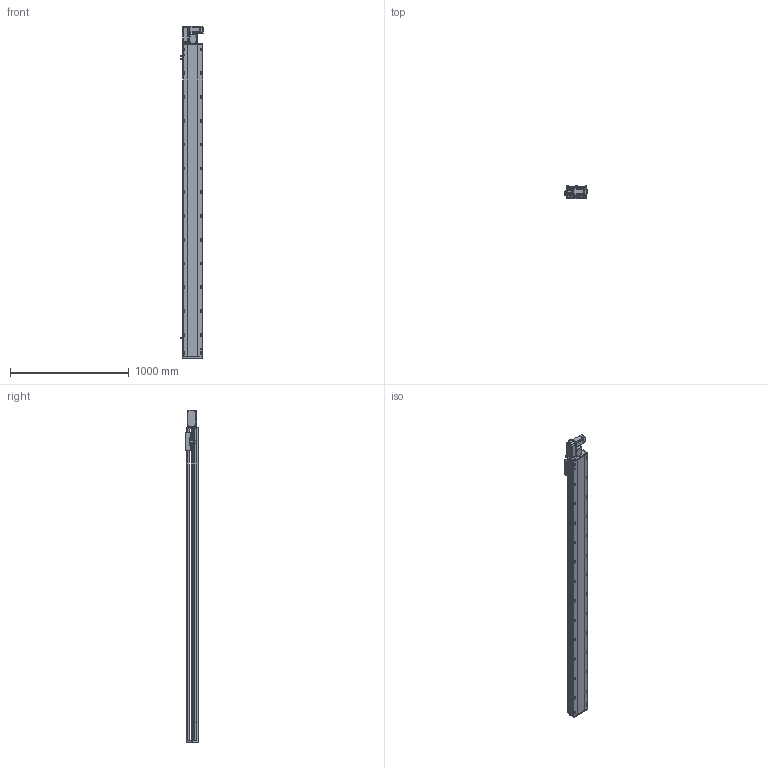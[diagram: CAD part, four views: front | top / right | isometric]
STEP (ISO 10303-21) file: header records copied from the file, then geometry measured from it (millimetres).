
FILE_DESCRIPTION (( 'STEP AP214' ), '1' );
FILE_NAME ('RTB17S-XX-2350-L-M40-C4.STEP', '2025-12-11T05:54:26', ( '' ), ( '' ), 'SwSTEP 2.0', 'SolidWorks 2018', '' );
FILE_SCHEMA (( 'AUTOMOTIVE_DESIGN' ));
Length unit declared in the file: millimetre
Products named in the file (14): RTB17-R-011底座^RTB17S-XX-XX-L-M40-C4（方程式）; RTB14-L-018P^RTB17S-L-皮带座装配-400W_RTB17S-XX-XX-L-M40-C4（方程式）; RTB17S-L-004丝杆螺母连接座^RTB17S-XX-XX-L-M40-C4（方程式）; RTB14-L-005P--轴承塑胶压盖^RTB17S-L-皮带座装配-400W_RTB17S-XX-XX-L-M40-C4（方程式）; RTB14-L-017P^RTB17S-L-皮带座装配-400W_RTB17S-XX-XX-L-M40-C4（方程式）; 400W伺服电机^RTB17S-XX-XX-L-M40-C4（方程式）; RTB17S-L-皮带座装配-400W^RTB17S-XX-XX-L-M40-C4（方程式）; RTB17S-L-007上盖^RTB17S-XX-XX-L-M40-C4（方程式）; RTB14-L-008-M20--电机板^RTB17S-L-皮带座装配-400W_RTB17S-XX-XX-L-M40-C4（方程式）; RTB17S-L-001侧面板^RTB17S-XX-XX-L-M40-C4（方程式）; RMP17S-L-014-T20--皮带座^RTB17S-L-皮带座装配-400W_RTB17S-XX-XX-L-M40-C4（方程式）; RTH13-BL-012感应片外置^RTB17S-XX-XX-L-M40-C4（方程式）; OMRON EE-SX672 传感器^RTB17S-XX-XX-L-M40-C4（方程式）; RTB17S-XX-2350-L-M40-C4
Assembly tree (16 placements, depth 3):
  RTB17S-XX-2350-L-M40-C4
    RTB17-R-011底座^RTB17S-XX-XX-L-M40-C4（方程式）
    RTB17S-L-007上盖^RTB17S-XX-XX-L-M40-C4（方程式）
    OMRON EE-SX672 传感器^RTB17S-XX-XX-L-M40-C4（方程式）  x3
    RTB17S-L-001侧面板^RTB17S-XX-XX-L-M40-C4（方程式）
    400W伺服电机^RTB17S-XX-XX-L-M40-C4（方程式）
    RTB17S-L-004丝杆螺母连接座^RTB17S-XX-XX-L-M40-C4（方程式）
    RTH13-BL-012感应片外置^RTB17S-XX-XX-L-M40-C4（方程式）
    RTB17S-L-皮带座装配-400W^RTB17S-XX-XX-L-M40-C4（方程式）
      RMP17S-L-014-T20--皮带座^RTB17S-L-皮带座装配-400W_RTB17S-XX-XX-L-M40-C4（方程式）
      RTB14-L-005P--轴承塑胶压盖^RTB17S-L-皮带座装配-400W_RTB17S-XX-XX-L-M40-C4（方程式）
      RTB14-L-008-M20--电机板^RTB17S-L-皮带座装配-400W_RTB17S-XX-XX-L-M40-C4（方程式）
      RTB14-L-017P^RTB17S-L-皮带座装配-400W_RTB17S-XX-XX-L-M40-C4（方程式）  x2
      RTB14-L-018P^RTB17S-L-皮带座装配-400W_RTB17S-XX-XX-L-M40-C4（方程式）
Bounding box: 186 x 108 x 2791 mm (x, y, z)
Volume: 23383487.2 mm3; surface area: 2698608.2 mm2
Topology: 15 solids, 15 shells, 2317 faces, 6465 edges, 4221 vertices
Faces by surface type: plane 1082, cylinder 787, bspline 301, cone 139, torus 8
Entity records: 68009 total; most frequent: CARTESIAN_POINT 19270, ORIENTED_EDGE 9774, DIRECTION 9026, EDGE_CURVE 4887, VERTEX_POINT 3209, AXIS2_PLACEMENT_3D 3139, VECTOR 2748, LINE 2748
